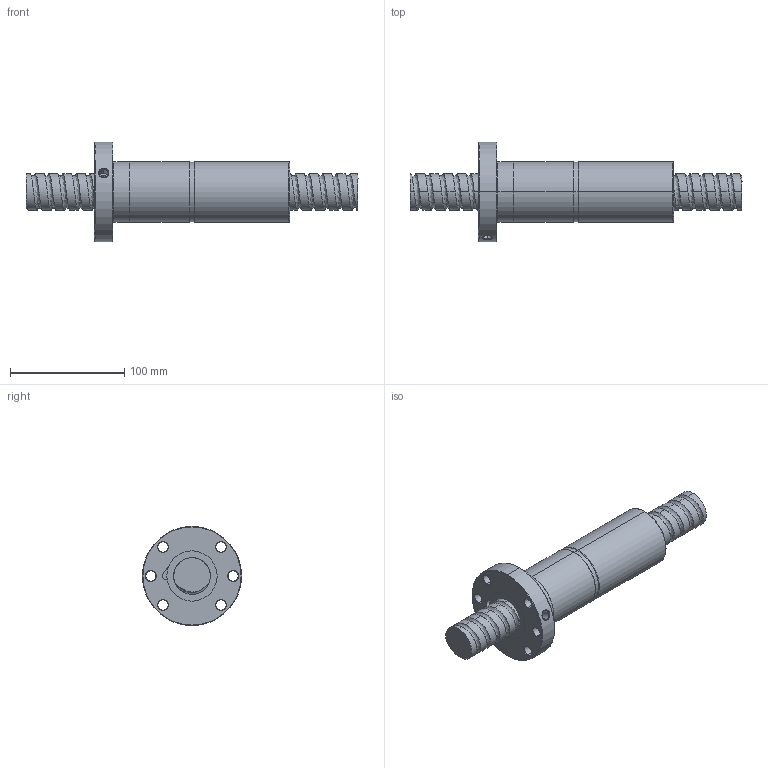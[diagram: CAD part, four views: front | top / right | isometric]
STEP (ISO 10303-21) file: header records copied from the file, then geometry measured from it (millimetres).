
FILE_DESCRIPTION (( 'STEP AP214' ), '1' );
FILE_NAME ('FDDC03212T5-D-A.STEP', '2010-07-06T05:20:22', ( 'XPAUTO' ), ( 'XPAUTO' ), 'SwSTEP 2.0', 'SolidWorks 2007', '' );
FILE_SCHEMA (( 'AUTOMOTIVE_DESIGN' ));
Length unit declared in the file: millimetre
Products named in the file (3): FDDC03212T5-D-A.sldasm-Part-2_預設; FDDC03212T5-D-A; FDDC03212T5-D-A.sldasm-Part-1_預設
Assembly tree (2 placements, depth 2):
  FDDC03212T5-D-A
    FDDC03212T5-D-A.sldasm-Part-2_預設
    FDDC03212T5-D-A.sldasm-Part-1_預設
Bounding box: 291 x 87 x 87 mm (x, y, z)
Volume: 506777.8 mm3; surface area: 94578.9 mm2
Topology: 2 solids, 2 shells, 147 faces, 371 edges, 233 vertices
Faces by surface type: cylinder 92, cone 24, plane 16, torus 10, bspline 5
Entity records: 31324 total; most frequent: CARTESIAN_POINT 27832, ORIENTED_EDGE 742, DIRECTION 671, EDGE_CURVE 371, AXIS2_PLACEMENT_3D 274, VERTEX_POINT 233, EDGE_LOOP 168, ADVANCED_FACE 147
